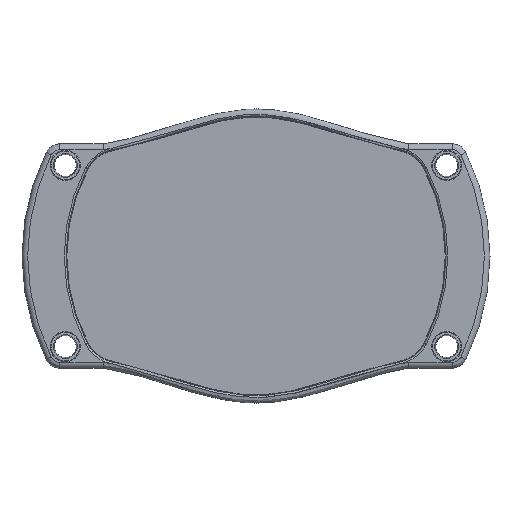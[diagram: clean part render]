
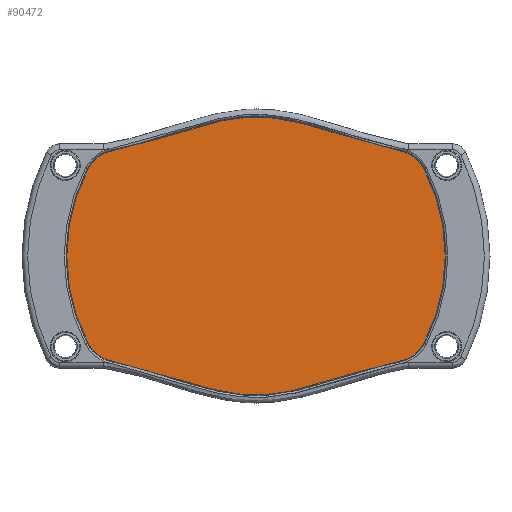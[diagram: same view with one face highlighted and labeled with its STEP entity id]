
A CAD part, front view. The second image highlights one B-rep face of the part: STEP entity #90472.
In plain terms, the highlighted planar face has unit normal (0, -1, 0) as drawn and (-1, 0, 0) by its records, which use the part's own axes.
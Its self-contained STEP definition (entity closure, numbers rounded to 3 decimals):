
#90239=CARTESIAN_POINT('',(0.,44.466,23.078));
#90240=CARTESIAN_POINT('',(0.,44.145,23.696));
#90241=CARTESIAN_POINT('',(0.,43.36,24.861));
#90242=CARTESIAN_POINT('',(0.,41.812,26.3));
#90243=CARTESIAN_POINT('',(0.,39.978,27.347));
#90244=CARTESIAN_POINT('',(0.,38.631,27.748));
#90245=CARTESIAN_POINT('',(0.,37.946,27.87));
#90247=CARTESIAN_POINT('',(0.,37.946,27.87));
#90248=CARTESIAN_POINT('',(0.,36.335,28.156));
#90249=CARTESIAN_POINT('',(0.,32.913,28.926));
#90250=CARTESIAN_POINT('',(0.,27.57,30.486));
#90251=CARTESIAN_POINT('',(0.,21.968,32.3));
#90252=CARTESIAN_POINT('',(0.,16.458,34.012));
#90253=CARTESIAN_POINT('',(0.,11.305,35.386));
#90254=CARTESIAN_POINT('',(0.,6.587,36.321));
#90255=CARTESIAN_POINT('',(0.,2.191,36.811));
#90256=CARTESIAN_POINT('',(0.,-2.112,36.816));
#90257=CARTESIAN_POINT('',(0.,-6.512,36.333));
#90258=CARTESIAN_POINT('',(0.,-11.232,35.403));
#90259=CARTESIAN_POINT('',(0.,-16.367,34.038));
#90260=CARTESIAN_POINT('',(0.,-21.868,32.333));
#90261=CARTESIAN_POINT('',(0.,-27.479,30.514));
#90262=CARTESIAN_POINT('',(0.,-32.864,28.937));
#90263=CARTESIAN_POINT('',(0.,-36.32,28.158));
#90264=CARTESIAN_POINT('',(0.,-37.946,27.87));
#90266=CARTESIAN_POINT('',(0.,-37.946,27.87));
#90267=CARTESIAN_POINT('',(0.,-38.632,27.748));
#90268=CARTESIAN_POINT('',(0.,-39.978,27.347));
#90269=CARTESIAN_POINT('',(0.,-41.813,26.299));
#90270=CARTESIAN_POINT('',(0.,-43.361,24.86));
#90271=CARTESIAN_POINT('',(0.,-44.145,23.695));
#90272=CARTESIAN_POINT('',(0.,-44.466,23.078));
#90274=CARTESIAN_POINT('',(0.,0.,0.));
#90275=DIRECTION('',(1.,0.,0.));
#90276=DIRECTION('',(0.,-0.888,0.461));
#90277=AXIS2_PLACEMENT_3D('',#90274,#90275,#90276);
#90279=CARTESIAN_POINT('',(0.,-44.466,-23.078));
#90280=CARTESIAN_POINT('',(0.,-44.145,-23.695));
#90281=CARTESIAN_POINT('',(0.,-43.361,-24.86));
#90282=CARTESIAN_POINT('',(0.,-41.813,-26.299));
#90283=CARTESIAN_POINT('',(0.,-39.978,-27.347));
#90284=CARTESIAN_POINT('',(0.,-38.632,-27.748));
#90285=CARTESIAN_POINT('',(0.,-37.946,-27.87));
#90287=CARTESIAN_POINT('',(0.,-37.946,-27.87));
#90288=CARTESIAN_POINT('',(0.,-36.329,-28.157));
#90289=CARTESIAN_POINT('',(0.,-32.893,-28.93));
#90290=CARTESIAN_POINT('',(0.,-27.527,-30.499));
#90291=CARTESIAN_POINT('',(0.,-21.9,-32.322));
#90292=CARTESIAN_POINT('',(0.,-16.362,-34.041));
#90293=CARTESIAN_POINT('',(0.,-11.186,-35.414));
#90294=CARTESIAN_POINT('',(0.,-6.45,-36.343));
#90295=CARTESIAN_POINT('',(0.,-2.042,-36.82));
#90296=CARTESIAN_POINT('',(0.,2.257,-36.806));
#90297=CARTESIAN_POINT('',(0.,6.639,-36.312));
#90298=CARTESIAN_POINT('',(0.,11.338,-35.377));
#90299=CARTESIAN_POINT('',(0.,16.455,-34.012));
#90300=CARTESIAN_POINT('',(0.,21.932,-32.312));
#90301=CARTESIAN_POINT('',(0.,27.522,-30.501));
#90302=CARTESIAN_POINT('',(0.,32.883,-28.933));
#90303=CARTESIAN_POINT('',(0.,36.328,-28.157));
#90304=CARTESIAN_POINT('',(0.,37.946,-27.87));
#90306=CARTESIAN_POINT('',(0.,37.946,-27.87));
#90307=CARTESIAN_POINT('',(0.,38.632,-27.748));
#90308=CARTESIAN_POINT('',(0.,39.978,-27.347));
#90309=CARTESIAN_POINT('',(0.,41.813,-26.299));
#90310=CARTESIAN_POINT('',(0.,43.361,-24.86));
#90311=CARTESIAN_POINT('',(0.,44.145,-23.695));
#90312=CARTESIAN_POINT('',(0.,44.466,-23.078));
#90314=CARTESIAN_POINT('',(0.,0.,0.));
#90315=DIRECTION('',(1.,0.,0.));
#90316=DIRECTION('',(0.,0.888,-0.461));
#90317=AXIS2_PLACEMENT_3D('',#90314,#90315,#90316);
#90431=VERTEX_POINT('',#90239);
#90432=VERTEX_POINT('',#90245);
#90433=VERTEX_POINT('',#90264);
#90434=VERTEX_POINT('',#90272);
#90435=CARTESIAN_POINT('',(0.,-44.466,-23.078));
#90436=VERTEX_POINT('',#90435);
#90437=VERTEX_POINT('',#90285);
#90438=VERTEX_POINT('',#90304);
#90439=VERTEX_POINT('',#90312);
#90449=CARTESIAN_POINT('',(0.,0.,0.));
#90450=DIRECTION('',(1.,0.,0.));
#90451=DIRECTION('',(0.,-1.,0.));
#90452=AXIS2_PLACEMENT_3D('',#90449,#90450,#90451);
#90453=PLANE('',#90452);
#90455=ORIENTED_EDGE('',*,*,#90454,.T.);
#90457=ORIENTED_EDGE('',*,*,#90456,.T.);
#90459=ORIENTED_EDGE('',*,*,#90458,.T.);
#90461=ORIENTED_EDGE('',*,*,#90460,.T.);
#90463=ORIENTED_EDGE('',*,*,#90462,.T.);
#90465=ORIENTED_EDGE('',*,*,#90464,.T.);
#90467=ORIENTED_EDGE('',*,*,#90466,.T.);
#90469=ORIENTED_EDGE('',*,*,#90468,.T.);
#90470=EDGE_LOOP('',(#90455,#90457,#90459,#90461,#90463,#90465,#90467,#90469));
#90471=FACE_OUTER_BOUND('',#90470,.F.);
#90472=ADVANCED_FACE('',(#90471),#90453,.F.);
#90246=B_SPLINE_CURVE_WITH_KNOTS('',3,(#90239,#90240,#90241,#90242,#90243,
#90244,#90245),.UNSPECIFIED.,.F.,.F.,(4,1,1,1,4),(0.,0.249,
0.5,0.751,1.),.UNSPECIFIED.);
#90265=B_SPLINE_CURVE_WITH_KNOTS('',3,(#90247,#90248,#90249,#90250,#90251,
#90252,#90253,#90254,#90255,#90256,#90257,#90258,#90259,#90260,#90261,#90262,
#90263,#90264),.UNSPECIFIED.,.F.,.F.,(4,1,1,1,1,1,1,1,1,1,1,1,1,1,1,4),(0.,
0.067,0.142,0.221,0.296,
0.363,0.423,0.475,0.524,
0.577,0.636,0.703,0.777,
0.857,0.932,1.),.UNSPECIFIED.);
#90273=B_SPLINE_CURVE_WITH_KNOTS('',3,(#90266,#90267,#90268,#90269,#90270,
#90271,#90272),.UNSPECIFIED.,.F.,.F.,(4,1,1,1,4),(0.,0.249,
0.5,0.751,1.),.UNSPECIFIED.);
#90278=CIRCLE('',#90277,50.098);
#90286=B_SPLINE_CURVE_WITH_KNOTS('',3,(#90279,#90280,#90281,#90282,#90283,
#90284,#90285),.UNSPECIFIED.,.F.,.F.,(4,1,1,1,4),(0.,0.249,
0.5,0.751,1.),.UNSPECIFIED.);
#90305=B_SPLINE_CURVE_WITH_KNOTS('',3,(#90287,#90288,#90289,#90290,#90291,
#90292,#90293,#90294,#90295,#90296,#90297,#90298,#90299,#90300,#90301,#90302,
#90303,#90304),.UNSPECIFIED.,.F.,.F.,(4,1,1,1,1,1,1,1,1,1,1,1,1,1,1,4),(0.,
0.067,0.142,0.222,0.298,
0.365,0.424,0.477,0.526,
0.578,0.637,0.704,0.778,
0.857,0.933,1.),.UNSPECIFIED.);
#90313=B_SPLINE_CURVE_WITH_KNOTS('',3,(#90306,#90307,#90308,#90309,#90310,
#90311,#90312),.UNSPECIFIED.,.F.,.F.,(4,1,1,1,4),(0.,0.249,
0.5,0.751,1.),.UNSPECIFIED.);
#90318=CIRCLE('',#90317,50.098);
#90454=EDGE_CURVE('',#90431,#90432,#90246,.T.);
#90456=EDGE_CURVE('',#90432,#90433,#90265,.T.);
#90458=EDGE_CURVE('',#90433,#90434,#90273,.T.);
#90460=EDGE_CURVE('',#90434,#90436,#90278,.T.);
#90462=EDGE_CURVE('',#90436,#90437,#90286,.T.);
#90464=EDGE_CURVE('',#90437,#90438,#90305,.T.);
#90466=EDGE_CURVE('',#90438,#90439,#90313,.T.);
#90468=EDGE_CURVE('',#90439,#90431,#90318,.T.);
